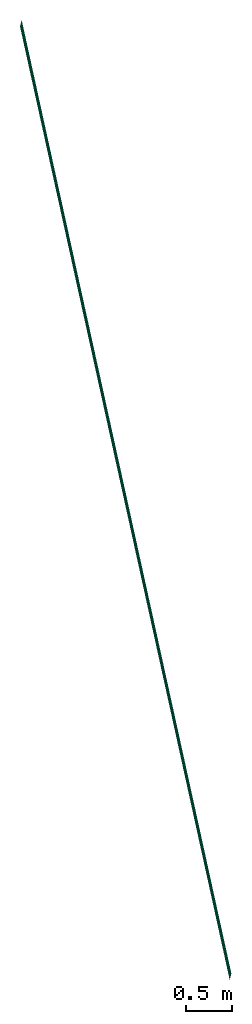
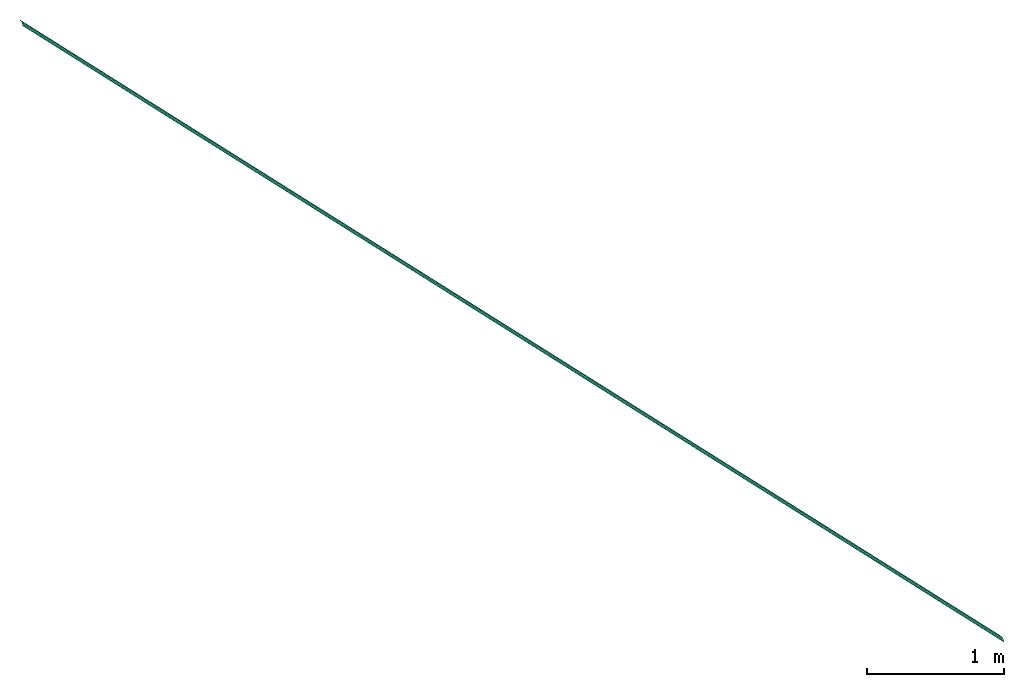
# One storey: 1 flow segment.
"""IFC2X3 building model written with IfcOpenShell, lengths in millimetres."""

from ifc_helpers import new_model, entity, si_unit, converted_unit, derived_unit, direction, frame, origin, origin_with_axes, place, context, subcontext, project, spatial, faceted_brep, type_object, element, save


model = new_model("IFC2X3")

# Units and contexts
plan_context = context("Plan", 3, precision=1e-05, world=origin_with_axes())
model_context = context("Model", 3, precision=0.01, world=origin(), true_north=direction((6.12323399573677e-17, 1.0)))
body_context = subcontext(model_context, "Body", "Model", "MODEL_VIEW")
ifc_project = project(units=[converted_unit("PLANEANGLEUNIT", "DEGREE", entity("IfcPositiveLengthMeasure", 0.0174532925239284), si_unit("PLANEANGLEUNIT", "RADIAN"), dimensions=[0, 0, 0, 0, 0, 0, 0]), si_unit("AREAUNIT", "SQUARE_METRE"), si_unit("LENGTHUNIT", "METRE", prefix="MILLI"), si_unit("MASSUNIT", "GRAM", prefix="KILO"), si_unit("POWERUNIT", "WATT"), si_unit("PRESSUREUNIT", "PASCAL", prefix="KILO"), si_unit("FORCEUNIT", "NEWTON", prefix="KILO"), si_unit("ELECTRICVOLTAGEUNIT", "VOLT"), si_unit("ELECTRICCURRENTUNIT", "AMPERE"), si_unit("THERMODYNAMICTEMPERATUREUNIT", "DEGREE_CELSIUS"), si_unit("TIMEUNIT", "SECOND"), si_unit("VOLUMEUNIT", "CUBIC_METRE"), derived_unit("LINEARVELOCITYUNIT", [(si_unit("LENGTHUNIT", "METRE"), 1), (si_unit("TIMEUNIT", "SECOND"), -1)]), derived_unit("VOLUMETRICFLOWRATEUNIT", [(si_unit("VOLUMEUNIT", "CUBIC_METRE"), 1), (si_unit("TIMEUNIT", "SECOND"), -1)]), derived_unit("THERMALTRANSMITTANCEUNIT", [(si_unit("POWERUNIT", "WATT"), 1), (si_unit("THERMODYNAMICTEMPERATUREUNIT", "KELVIN"), -1), (si_unit("AREAUNIT", "SQUARE_METRE"), -1)]), derived_unit("SOUNDPRESSUREUNIT", [(si_unit("PRESSUREUNIT", "PASCAL"), 1)])], contexts=[model_context, plan_context])

# Site, building, storey
site_placement = place(None, frame((0.0, 0.0, 0.0), z_axis=(0.0, 0.0, 1.0), x_axis=(0.214788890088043, -0.97666050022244, 0.0)))
site = spatial("IfcSite", under=ifc_project, at=site_placement, Name="ENZV", CompositionType="ELEMENT")
building_placement = place(site_placement, origin_with_axes())
building = spatial("IfcBuilding", under=site, at=building_placement, Name="ZV001", CompositionType="ELEMENT")
storey_placement = place(building_placement, origin_with_axes())
storey = spatial("IfcBuildingStorey", under=building, at=storey_placement, Name="Nullnivå", CompositionType="ELEMENT", Elevation=0.0)

# Flow segment
pipe_segment_type = type_object("IfcPipeSegmentType", Name="PE 80 trykkrør SDR 11", PredefinedType="RIGIDSEGMENT")
flow_segment_placement = place(storey_placement, frame((-220514.7548, 378905.73839, 4100.0), z_axis=(0.0, 0.0, 1.0), x_axis=(1.0, 0.0, 0.0)))
element("IfcFlowSegment", 1, at=flow_segment_placement, inside=storey, type_object=pipe_segment_type, Name="PE 80 trykkrør SDR 11", context=body_context, shape_type="Brep", body=[
    faceted_brep([(27748.6141887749, -14.0000000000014, 0.0), (27748.1962073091, -13.7873085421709, 2.43107448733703), (17127.8097576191, -13.7873085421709, 2.43107448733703), (17128.2277390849, -14.0000000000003, 0.0), (27746.9549630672, -13.1556966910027, 4.78828200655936), (17126.5685133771, -13.1556966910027, 4.78828200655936), (27744.9281706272, -12.1243556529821, 7.0), (17124.5417209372, -12.1243556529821, 7.0), (27742.177413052, -10.7246222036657, 8.99902653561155), (17121.7909633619, -10.7246222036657, 8.99902653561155), (27738.7862707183, -8.99902653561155, 10.7246222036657), (17118.3998210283, -8.99902653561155, 10.7246222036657), (27734.8577817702, -7.0, 12.1243556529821), (17114.4713320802, -7.0, 12.1243556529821), (27730.5113113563, -4.78828200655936, 13.1556966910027), (17110.1248616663, -4.78828200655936, 13.1556966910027), (27725.8789247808, -2.43107448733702, 13.7873085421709), (17105.4924750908, -2.43107448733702, 13.7873085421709), (27721.1013747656, 8.57252759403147e-16, 14.0), (17100.7149250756, 8.57252759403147e-16, 14.0), (27716.3238247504, 2.43107448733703, 13.7873085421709), (17095.9373750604, 2.43107448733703, 13.7873085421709), (27711.6914381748, 4.78828200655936, 13.1556966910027), (17091.3049884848, 4.78828200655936, 13.1556966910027), (27707.3449677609, 7.0, 12.1243556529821), (17086.9585180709, 7.0, 12.1243556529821), (27703.4164788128, 8.99902653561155, 10.7246222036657), (17083.0300291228, 8.99902653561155, 10.7246222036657), (27700.0253364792, 10.7246222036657, 8.99902653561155), (17079.6388867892, 10.7246222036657, 8.99902653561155), (27697.2745789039, 12.1243556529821, 7.0), (17076.8881292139, 12.1243556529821, 7.0), (27695.247786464, 13.1556966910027, 4.78828200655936), (17074.861336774, 13.1556966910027, 4.78828200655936), (27694.006542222, 13.7873085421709, 2.43107448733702), (17073.620092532, 13.7873085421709, 2.43107448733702), (27693.5885607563, 14.0000000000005, 0.0), (17073.2021110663, 14.0000000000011, 0.0), (27687.6422390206, 17.0258084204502, 0.0), (27690.1358518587, 15.7569240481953, 2.77837084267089), (17069.7494021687, 15.7569240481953, 2.77837084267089), (17067.2557893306, 17.0258084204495, 0.0), (27691.5544167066, 15.0350819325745, 5.4723222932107), (17071.1679670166, 15.0350819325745, 5.4723222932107), (27693.8707509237, 13.856406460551, 8.0), (17073.4843012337, 13.856406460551, 8.0), (27697.0144738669, 12.2567110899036, 10.2846017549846), (17076.6280241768, 12.2567110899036, 10.2846017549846), (27700.8900651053, 10.2846017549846, 12.2567110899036), (17080.5036154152, 10.2846017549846, 12.2567110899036), (27705.3797667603, 8.0, 13.856406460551), (17084.9933170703, 8.0, 13.856406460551), (27710.347161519, 5.4723222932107, 15.0350819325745), (17089.960711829, 5.4723222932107, 15.0350819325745), (27715.6413176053, 2.77837084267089, 15.7569240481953), (17095.2548679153, 2.77837084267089, 15.7569240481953), (27721.1013747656, 9.79717439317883e-16, 16.0), (17100.7149250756, 9.79717439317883e-16, 16.0), (27726.5614319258, -2.77837084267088, 15.7569240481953), (17106.1749822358, -2.77837084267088, 15.7569240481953), (27731.8555880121, -5.4723222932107, 15.0350819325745), (17111.4691383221, -5.4723222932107, 15.0350819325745), (27736.8229827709, -8.0, 13.856406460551), (17116.4365330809, -8.0, 13.856406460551), (27741.3126844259, -10.2846017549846, 12.2567110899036), (17120.9262347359, -10.2846017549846, 12.2567110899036), (27745.1882756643, -12.2567110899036, 10.2846017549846), (17124.8018259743, -12.2567110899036, 10.2846017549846), (27748.3319986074, -13.856406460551, 8.0), (17127.9455489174, -13.856406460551, 8.0), (27750.6483328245, -15.0350819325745, 5.4723222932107), (17130.2618831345, -15.0350819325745, 5.4723222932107), (27752.0668976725, -15.7569240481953, 2.77837084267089), (17131.6804479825, -15.7569240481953, 2.77837084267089), (27751.3428885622, -15.3885092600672, 0.0), (17130.9564388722, -15.3885092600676, 0.0), (27752.5445907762, -16.0, 1.95943487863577e-15), (27689.658158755, 16.0, 0.0), (17069.2717090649, 16.0, 0.0), (17132.1581410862, -16.0, 1.95943487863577e-15)], [[[0, 1, 2, 3]], [[1, 4, 5, 2]], [[4, 6, 7, 5]], [[6, 8, 9, 7]], [[8, 10, 11, 9]], [[10, 12, 13, 11]], [[12, 14, 15, 13]], [[14, 16, 17, 15]], [[16, 18, 19, 17]], [[18, 20, 21, 19]], [[20, 22, 23, 21]], [[22, 24, 25, 23]], [[24, 26, 27, 25]], [[26, 28, 29, 27]], [[28, 30, 31, 29]], [[30, 32, 33, 31]], [[32, 34, 35, 33]], [[34, 36, 37, 35]], [[38, 39, 40, 41]], [[39, 42, 43, 40]], [[42, 44, 45, 43]], [[44, 46, 47, 45]], [[46, 48, 49, 47]], [[48, 50, 51, 49]], [[50, 52, 53, 51]], [[52, 54, 55, 53]], [[54, 56, 57, 55]], [[56, 58, 59, 57]], [[58, 60, 61, 59]], [[60, 62, 63, 61]], [[62, 64, 65, 63]], [[64, 66, 67, 65]], [[66, 68, 69, 67]], [[68, 70, 71, 69]], [[70, 72, 73, 71]], [[72, 74, 75, 73]], [[76, 72, 70, 68, 66, 64, 62, 60, 58, 56, 54, 52, 50, 48, 46, 44, 42, 39, 77, 36, 34, 32, 30, 28, 26, 24, 22, 20, 18, 16, 14, 12, 10, 8, 6, 4, 1, 0]], [[78, 40, 43, 45, 47, 49, 51, 53, 55, 57, 59, 61, 63, 65, 67, 69, 71, 73, 79, 3, 2, 5, 7, 9, 11, 13, 15, 17, 19, 21, 23, 25, 27, 29, 31, 33, 35, 37]], [[79, 76, 0, 3]], [[37, 36, 77, 78]]], orient=[[False], [False], [False], [False], [False], [False], [False], [False], [False], [False], [False], [False], [False], [False], [False], [False], [False], [False], [False], [False], [False], [False], [False], [False], [False], [False], [False], [False], [False], [False], [False], [False], [False], [False], [False], [False], [False], [False], [False], [False]]),
])

save(model, "model.ifc")
